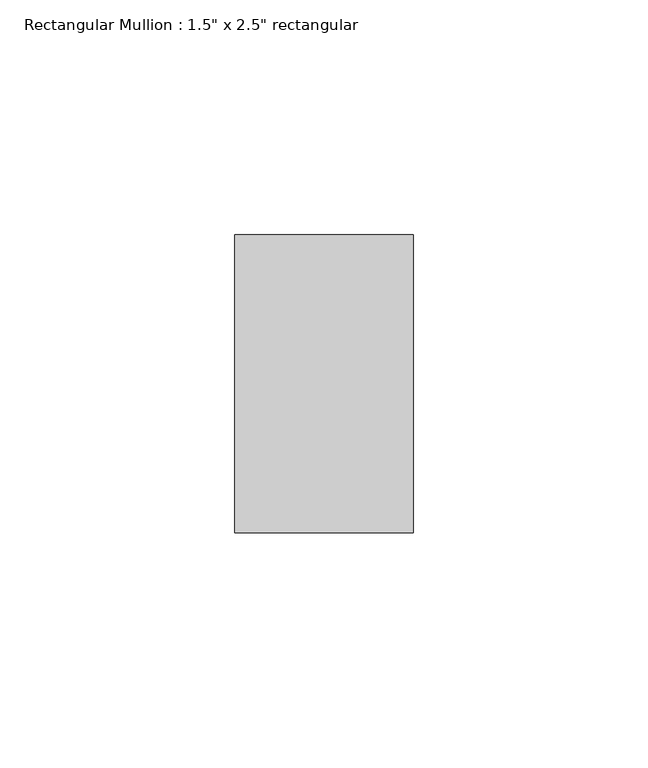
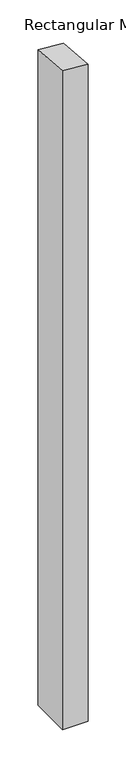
"""IFC4 building model written with IfcOpenShell, lengths in millimetres: member geometry."""

from ifc_helpers import new_model, si_unit, origin, place, context, project, spatial, faceted_brep, source, transform, mapped, element, save


def member_2f360e33(model_context):
    return source(origin(), model_context, "Body", "Brep", [
        faceted_brep([(0.0, 31.75, -1042.5981804), (0.0, -31.75, -1042.5981804), (-38.1, -31.75, -1042.5981804), (-38.1, 31.75, -1042.5981804), (-38.1, 31.75, 0.4497377), (0.0, 31.75, -2.3219877), (-38.1, -31.75, 5.0937131), (0.0, -31.75, 2.3219877)], [[[0, 1, 2, 3]], [[4, 5, 0, 3]], [[6, 4, 3, 2]], [[7, 6, 2, 1]], [[5, 7, 1, 0]], [[5, 4, 6, 7]]]),
    ])


if __name__ == "__main__":
    model = new_model("IFC4")
    model_context = context("Model", 3, world=origin())
    ifc_project = project(units=[si_unit("LENGTHUNIT", "METRE", prefix="MILLI")], contexts=[model_context])
    site = spatial("IfcSite", under=ifc_project)
    building = spatial("IfcBuilding", under=site)
    placement = place(None, origin())
    member_shape = member_2f360e33(model_context)
    element("IfcMember", 1, ObjectType="Rectangular Mullion : 1.5\" x 2.5\" rectangular", at=placement, inside=building, context=model_context, shape_type="MappedRepresentation", body=[
        mapped(member_shape, transform((0.0, 0.0, 0.0), x_axis=(1.0, 0.0, 0.0), y_axis=(0.0, 1.0, 0.0), z_axis=(0.0, 0.0, 1.0))),
    ])
    save(model, "model.ifc")
